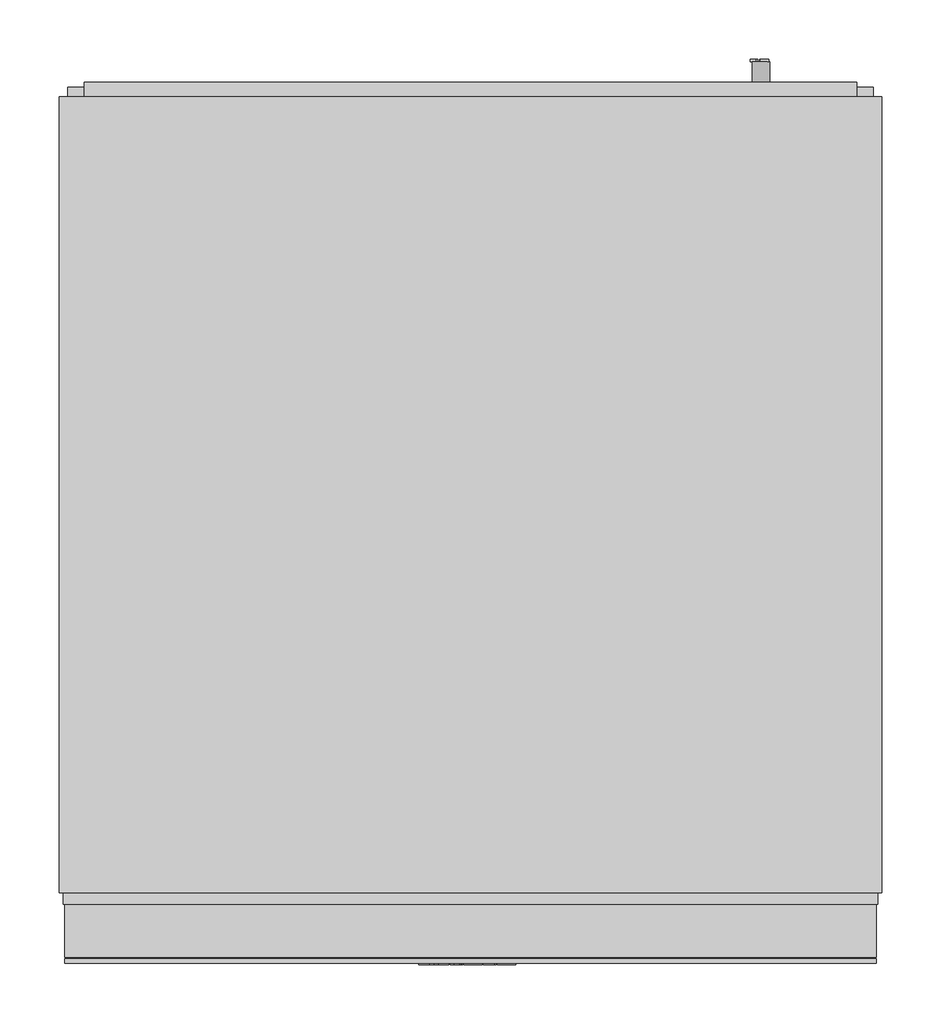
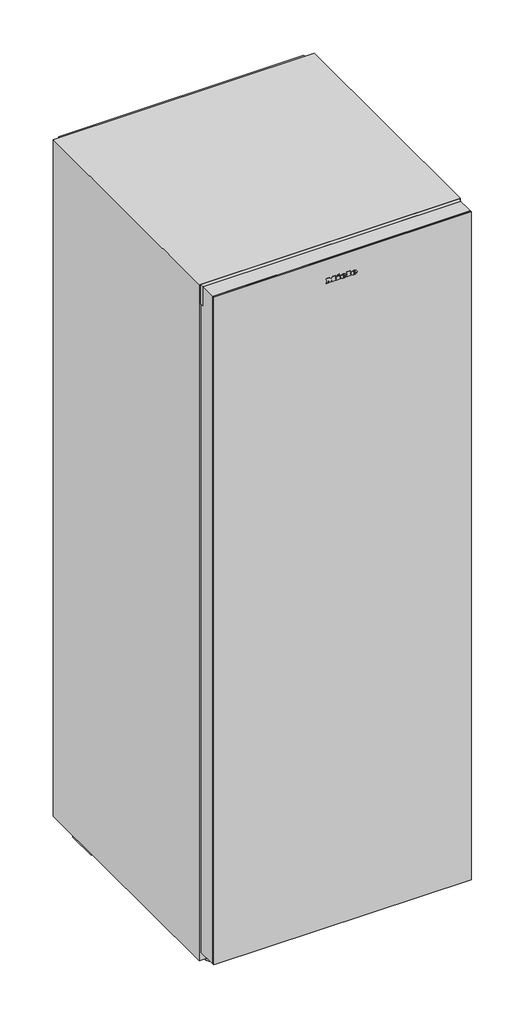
# Not in any storey: 1 proxy.
"""IFC4 building model written with IfcOpenShell, lengths in millimetres."""

from ifc_helpers import new_model, si_unit, origin, place, context, project, spatial, transform, mapped, element, save
from components import specialty_equipment_a5f2656a, specialty_equipment_9fdfd27e

model = new_model("IFC4")

# Units and contexts
model_context = context("Model", 3, world=origin())
ifc_project = project(units=[si_unit("LENGTHUNIT", "METRE", prefix="MILLI")], contexts=[model_context])

# Site, building
site = spatial("IfcSite", under=ifc_project)
building = spatial("IfcBuilding", under=site)

# Proxy
placement = place(None, origin())
specialty_equipment_shape = specialty_equipment_a5f2656a(model_context)
specialty_equipment_2_shape = specialty_equipment_9fdfd27e(model_context)
element("IfcBuildingElementProxy", 1, Name="10423090_OER_KWT6834SGS : 36683400_OER_10423090_KWT6834SGS", ObjectType="10423090_OER_KWT6834SGS : 36683400_OER_10423090_KWT6834SGS", at=placement, inside=building, context=model_context, shape_type="MappedRepresentation", body=[
    mapped(specialty_equipment_shape, transform((0.0, 0.0, 0.0), x_axis=(1.0, 0.0, 0.0), y_axis=(0.0, 1.0, 0.0), z_axis=(0.0, 0.0, 1.0))),
    mapped(specialty_equipment_2_shape, transform((0.0, 0.0, 0.0), x_axis=(1.0, 0.0, 0.0), y_axis=(0.0, 1.0, 0.0), z_axis=(0.0, 0.0, 1.0))),
])

save(model, "model.ifc")
